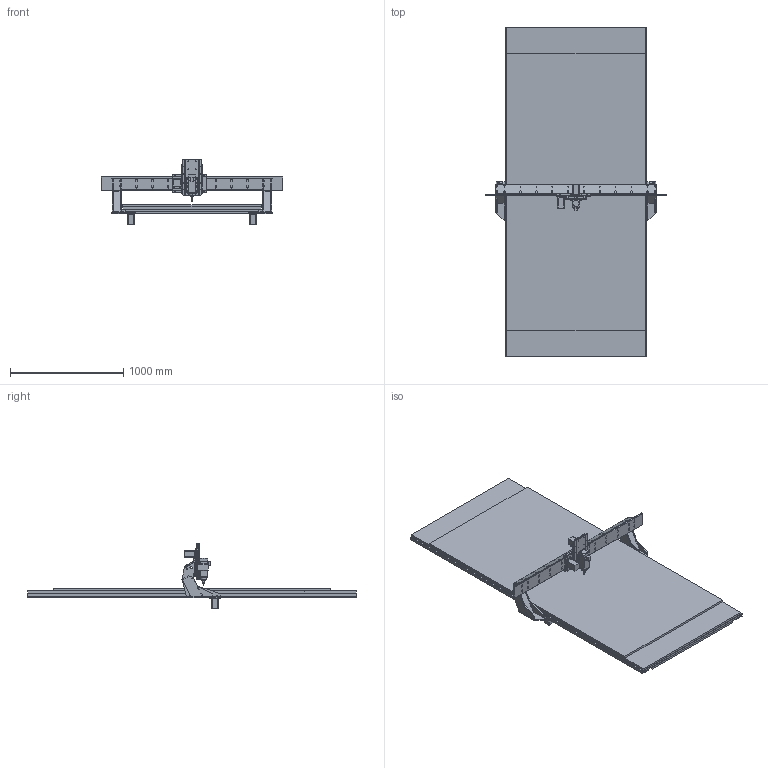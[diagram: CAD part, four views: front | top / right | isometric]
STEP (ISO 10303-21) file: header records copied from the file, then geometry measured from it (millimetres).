
FILE_DESCRIPTION(/* description */ (''),/* implementation_level */ '2;1');
FILE_NAME(/* name */ 'HUMPHR~1',/* time_stamp */ '2017-07-03T02:48:39+02:00',/* author */ (''),/* organization */ (''),/* preprocessor_version */ 'ST-DEVELOPER v15',/* originating_system */ '',/* authorisation */ '');
FILE_SCHEMA (('AUTOMOTIVE_DESIGN'));
Products named in the file (1): Document
Bounding box: 1600 x 2900 x 582.21 mm (x, y, z)
Volume: 259957730.9 mm3; surface area: 30513203.1 mm2
Topology: 65 solids, 65 shells, 3048 faces, 8672 edges, 5816 vertices
Faces by surface type: bspline 1536, plane 1512
Entity records: 166746 total; most frequent: CARTESIAN_POINT 115138, ORIENTED_EDGE 17114, EDGE_CURVE 8557, VERTEX_POINT 5700, B_SPLINE_CURVE_WITH_KNOTS 4194, EDGE_LOOP 4061, ADVANCED_FACE 3048, FACE_OUTER_BOUND 3048
